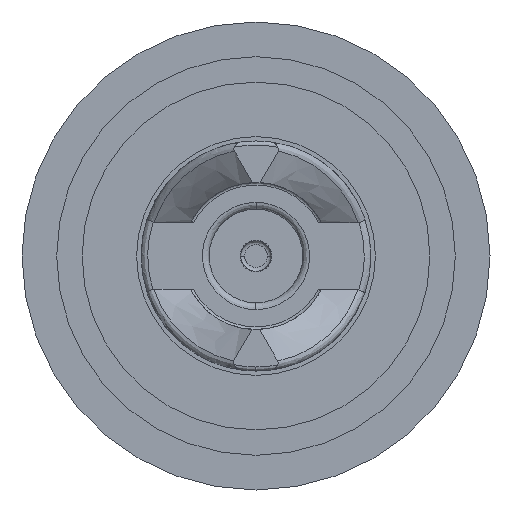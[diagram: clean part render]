
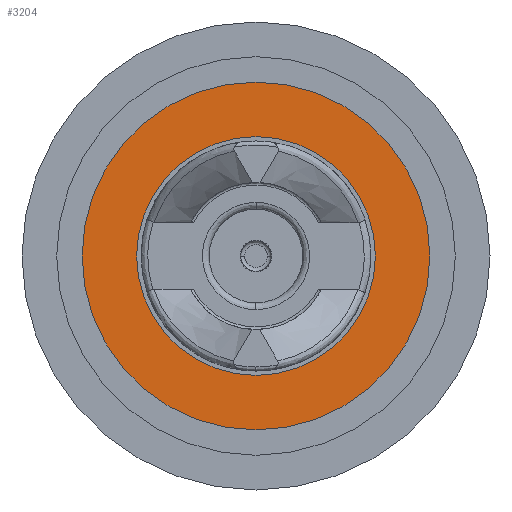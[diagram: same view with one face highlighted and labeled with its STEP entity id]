
A CAD part, front view. The second image highlights one B-rep face of the part: STEP entity #3204.
In plain terms, the highlighted planar face has unit normal (0, -1, 0).
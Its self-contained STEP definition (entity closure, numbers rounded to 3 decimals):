
#7 = VERTEX_POINT ( 'NONE', #677 ) ;
#73 = CARTESIAN_POINT ( 'NONE',  ( 0., 0., 0. ) ) ;
#474 = DIRECTION ( 'NONE',  ( 0., 1., 0. ) ) ;
#494 = AXIS2_PLACEMENT_3D ( 'NONE', #8013, #7979, #3611 ) ;
#630 = EDGE_CURVE ( 'NONE', #4946, #7, #1121, .T. ) ;
#677 = CARTESIAN_POINT ( 'NONE',  ( 0., 0., -8.925 ) ) ;
#974 = DIRECTION ( 'NONE',  ( 0., -1., 0. ) ) ;
#1121 = CIRCLE ( 'NONE', #494, 8.925 ) ;
#1184 = ORIENTED_EDGE ( 'NONE', *, *, #630, .F. ) ;
#1350 = CIRCLE ( 'NONE', #2622, 13. ) ;
#1442 = EDGE_CURVE ( 'NONE', #7, #4946, #2692, .T. ) ;
#1526 = DIRECTION ( 'NONE',  ( 0., 0., -1. ) ) ;
#1729 = CARTESIAN_POINT ( 'NONE',  ( 0., 0., 0. ) ) ;
#1909 = VERTEX_POINT ( 'NONE', #5995 ) ;
#2002 = VERTEX_POINT ( 'NONE', #5345 ) ;
#2013 = FACE_OUTER_BOUND ( 'NONE', #8251, .T. ) ;
#2197 = CARTESIAN_POINT ( 'NONE',  ( 0., 0., 0. ) ) ;
#2622 = AXIS2_PLACEMENT_3D ( 'NONE', #3527, #8014, #4156 ) ;
#2692 = CIRCLE ( 'NONE', #7506, 8.925 ) ;
#2839 = DIRECTION ( 'NONE',  ( 0., 0., 1. ) ) ;
#3204 = ADVANCED_FACE ( 'NONE', ( #6433, #2013 ), #6876, .F. ) ;
#3527 = CARTESIAN_POINT ( 'NONE',  ( 0., 0., 0. ) ) ;
#3611 = DIRECTION ( 'NONE',  ( 0., 0., -1. ) ) ;
#3767 = EDGE_CURVE ( 'NONE', #1909, #2002, #4601, .T. ) ;
#4118 = EDGE_LOOP ( 'NONE', ( #4223, #1184 ) ) ;
#4156 = DIRECTION ( 'NONE',  ( 0., 0., 1. ) ) ;
#4182 = CARTESIAN_POINT ( 'NONE',  ( 0., 0., 8.925 ) ) ;
#4223 = ORIENTED_EDGE ( 'NONE', *, *, #1442, .F. ) ;
#4367 = AXIS2_PLACEMENT_3D ( 'NONE', #2197, #6710, #2839 ) ;
#4448 = ORIENTED_EDGE ( 'NONE', *, *, #6599, .F. ) ;
#4601 = CIRCLE ( 'NONE', #4367, 13. ) ;
#4946 = VERTEX_POINT ( 'NONE', #4182 ) ;
#4959 = DIRECTION ( 'NONE',  ( 0., 0., 1. ) ) ;
#5057 = AXIS2_PLACEMENT_3D ( 'NONE', #1729, #474, #4959 ) ;
#5345 = CARTESIAN_POINT ( 'NONE',  ( 0., 0., 13. ) ) ;
#5995 = CARTESIAN_POINT ( 'NONE',  ( 0., 0., -13. ) ) ;
#6433 = FACE_BOUND ( 'NONE', #4118, .T. ) ;
#6599 = EDGE_CURVE ( 'NONE', #2002, #1909, #1350, .T. ) ;
#6710 = DIRECTION ( 'NONE',  ( 0., 1., 0. ) ) ;
#6851 = ORIENTED_EDGE ( 'NONE', *, *, #3767, .F. ) ;
#6876 = PLANE ( 'NONE',  #5057 ) ;
#7506 = AXIS2_PLACEMENT_3D ( 'NONE', #73, #974, #1526 ) ;
#7979 = DIRECTION ( 'NONE',  ( 0., -1., 0. ) ) ;
#8013 = CARTESIAN_POINT ( 'NONE',  ( 0., 0., 0. ) ) ;
#8014 = DIRECTION ( 'NONE',  ( 0., 1., 0. ) ) ;
#8251 = EDGE_LOOP ( 'NONE', ( #4448, #6851 ) ) ;
